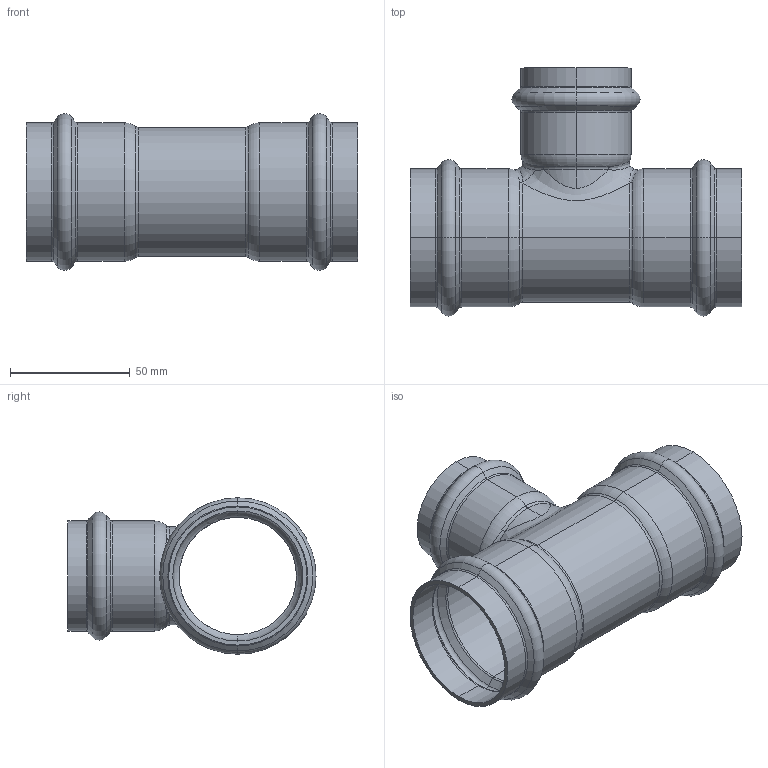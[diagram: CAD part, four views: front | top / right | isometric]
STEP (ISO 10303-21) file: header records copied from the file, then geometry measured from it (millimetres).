
FILE_DESCRIPTION (( 'STEP AP203' ), '1' );
FILE_NAME ('SP5130 Ø54-42-54.STEP', '2017-04-25T15:11:48', ( '' ), ( '' ), 'SwSTEP 2.0', 'SolidWorks 2016', '' );
FILE_SCHEMA (( 'CONFIG_CONTROL_DESIGN' ));
Length unit declared in the file: millimetre
Products named in the file (1): SP5130 Ø54-42-54
Bounding box: 138.5 x 103.7 x 65.4 mm (x, y, z)
Volume: 59826.4 mm3; surface area: 63348.2 mm2
Topology: 1 solids, 1 shells, 127 faces, 270 edges, 144 vertices
Faces by surface type: torus 57, cylinder 35, cone 24, bspline 8, plane 3
Entity records: 5266 total; most frequent: CARTESIAN_POINT 2421, DIRECTION 671, ORIENTED_EDGE 540, AXIS2_PLACEMENT_3D 308, EDGE_CURVE 270, CIRCLE 188, VERTEX_POINT 144, EDGE_LOOP 130
